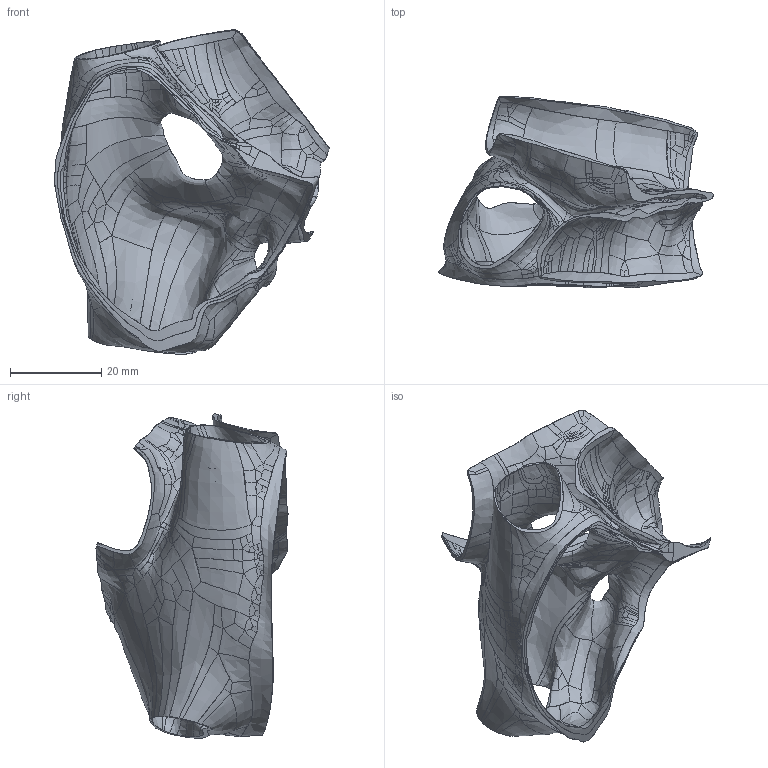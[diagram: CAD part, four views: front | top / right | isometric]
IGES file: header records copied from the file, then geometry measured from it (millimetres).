
Global section: file name: C:\FDA Main\FDA-Septal-Models\0129542\0129542.phase.0.igs; native system: Rhinoceros ( Mar  9 2011 ); preprocessor: Trout Lake IGES 012 Mar  9 2011; date: 120503.153623; units: millimetre
Bounding box: 60.3 x 42.15 x 71.21 mm (x, y, z)
Surface area: 16487.7 mm2 (no closed solid volume)
Topology: 0 solids, 0 shells, 1040 faces, 4157 edges, 4154 vertices
Faces by surface type: bspline 1040
